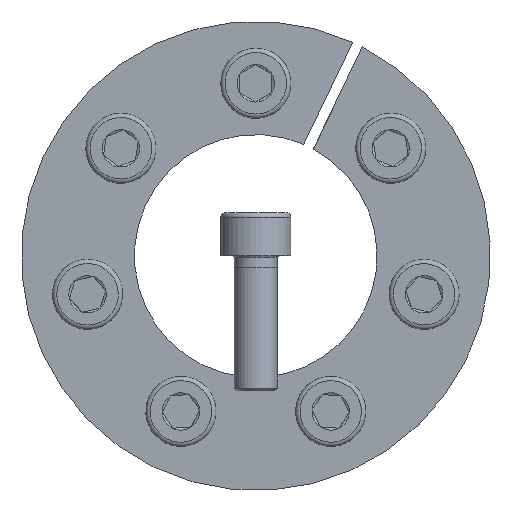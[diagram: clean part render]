
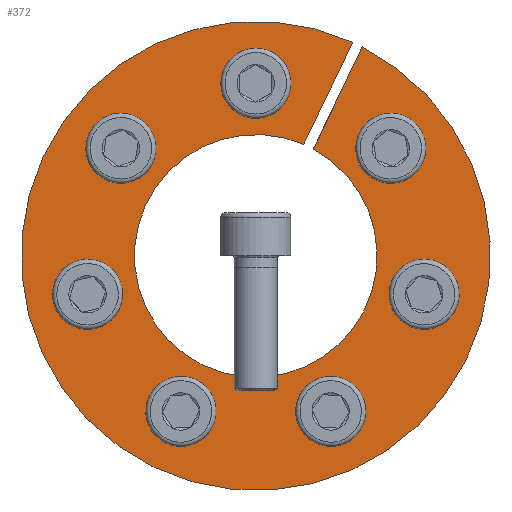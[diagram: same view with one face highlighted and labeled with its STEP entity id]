
A CAD part, front view. The second image highlights one B-rep face of the part: STEP entity #372.
In plain terms, the highlighted planar face has unit normal (0, -1, 0).
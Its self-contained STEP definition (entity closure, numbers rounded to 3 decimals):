
#372 = ADVANCED_FACE( '', ( #572, #573, #574, #575, #576, #577, #578, #579 ), #580, .F. );
#572 = FACE_OUTER_BOUND( '', #726, .T. );
#573 = FACE_BOUND( '', #727, .T. );
#574 = FACE_BOUND( '', #728, .T. );
#575 = FACE_BOUND( '', #729, .T. );
#576 = FACE_BOUND( '', #730, .T. );
#577 = FACE_BOUND( '', #731, .T. );
#578 = FACE_BOUND( '', #732, .T. );
#579 = FACE_BOUND( '', #733, .T. );
#580 = PLANE( '', #734 );
#726 = EDGE_LOOP( '', ( #910, #911, #912, #913 ) );
#727 = EDGE_LOOP( '', ( #914 ) );
#728 = EDGE_LOOP( '', ( #915 ) );
#729 = EDGE_LOOP( '', ( #916 ) );
#730 = EDGE_LOOP( '', ( #917 ) );
#731 = EDGE_LOOP( '', ( #918 ) );
#732 = EDGE_LOOP( '', ( #919 ) );
#733 = EDGE_LOOP( '', ( #920 ) );
#734 = AXIS2_PLACEMENT_3D( '', #921, #922, #923 );
#910 = ORIENTED_EDGE( '', *, *, #1235, .T. );
#911 = ORIENTED_EDGE( '', *, *, #1232, .T. );
#912 = ORIENTED_EDGE( '', *, *, #1236, .T. );
#913 = ORIENTED_EDGE( '', *, *, #1237, .F. );
#914 = ORIENTED_EDGE( '', *, *, #1238, .F. );
#915 = ORIENTED_EDGE( '', *, *, #1239, .F. );
#916 = ORIENTED_EDGE( '', *, *, #1240, .F. );
#917 = ORIENTED_EDGE( '', *, *, #1233, .F. );
#918 = ORIENTED_EDGE( '', *, *, #1241, .F. );
#919 = ORIENTED_EDGE( '', *, *, #1242, .F. );
#920 = ORIENTED_EDGE( '', *, *, #1243, .F. );
#921 = CARTESIAN_POINT( '', ( 0., 0., 43.5 ) );
#922 = DIRECTION( '', ( 0., 1., 0. ) );
#923 = DIRECTION( '', ( 1., 0., 0. ) );
#1232 = EDGE_CURVE( '', #1351, #1355, #1357, .T. );
#1233 = EDGE_CURVE( '', #1358, #1358, #1359, .T. );
#1235 = EDGE_CURVE( '', #1362, #1351, #1363, .T. );
#1236 = EDGE_CURVE( '', #1355, #1364, #1365, .T. );
#1237 = EDGE_CURVE( '', #1362, #1364, #1366, .T. );
#1238 = EDGE_CURVE( '', #1367, #1367, #1368, .T. );
#1239 = EDGE_CURVE( '', #1369, #1369, #1370, .T. );
#1240 = EDGE_CURVE( '', #1371, #1371, #1372, .T. );
#1241 = EDGE_CURVE( '', #1373, #1373, #1374, .T. );
#1242 = EDGE_CURVE( '', #1375, #1375, #1376, .T. );
#1243 = EDGE_CURVE( '', #1377, #1377, #1378, .T. );
#1351 = VERTEX_POINT( '', #1457 );
#1355 = VERTEX_POINT( '', #1462 );
#1357 = CIRCLE( '', #1465, 43.5 );
#1358 = VERTEX_POINT( '', #1466 );
#1359 = CIRCLE( '', #1467, 4.5 );
#1362 = VERTEX_POINT( '', #1470 );
#1363 = LINE( '', #1471, #1472 );
#1364 = VERTEX_POINT( '', #1473 );
#1365 = LINE( '', #1474, #1475 );
#1366 = CIRCLE( '', #1476, 22.5 );
#1367 = VERTEX_POINT( '', #1477 );
#1368 = CIRCLE( '', #1478, 4.5 );
#1369 = VERTEX_POINT( '', #1479 );
#1370 = CIRCLE( '', #1480, 4.5 );
#1371 = VERTEX_POINT( '', #1481 );
#1372 = CIRCLE( '', #1482, 4.5 );
#1373 = VERTEX_POINT( '', #1483 );
#1374 = CIRCLE( '', #1484, 4.5 );
#1375 = VERTEX_POINT( '', #1485 );
#1376 = CIRCLE( '', #1486, 4.5 );
#1377 = VERTEX_POINT( '', #1487 );
#1378 = CIRCLE( '', #1488, 4.5 );
#1457 = CARTESIAN_POINT( '', ( 17.968, 0., 39.616 ) );
#1462 = CARTESIAN_POINT( '', ( 19.77, 0., 38.748 ) );
#1465 = AXIS2_PLACEMENT_3D( '', #1587, #1588, #1589 );
#1466 = CARTESIAN_POINT( '', ( 9.83, 0., -30.783 ) );
#1467 = AXIS2_PLACEMENT_3D( '', #1590, #1591, #1592 );
#1470 = CARTESIAN_POINT( '', ( 8.852, 0., 20.686 ) );
#1471 = CARTESIAN_POINT( '', ( 8.852, 0., 20.686 ) );
#1472 = VECTOR( '', #1596, 1000. );
#1473 = CARTESIAN_POINT( '', ( 10.654, 0., 19.818 ) );
#1474 = CARTESIAN_POINT( '', ( 19.775, 0., 38.758 ) );
#1475 = VECTOR( '', #1597, 1000. );
#1476 = AXIS2_PLACEMENT_3D( '', #1598, #1599, #1600 );
#1477 = CARTESIAN_POINT( '', ( 4.5, 0., 32. ) );
#1478 = AXIS2_PLACEMENT_3D( '', #1601, #1602, #1603 );
#1479 = CARTESIAN_POINT( '', ( 27.824, 0., 16.433 ) );
#1480 = AXIS2_PLACEMENT_3D( '', #1604, #1605, #1606 );
#1481 = CARTESIAN_POINT( '', ( 30.196, 0., -11.508 ) );
#1482 = AXIS2_PLACEMENT_3D( '', #1607, #1608, #1609 );
#1483 = CARTESIAN_POINT( '', ( -17.939, 0., -26.879 ) );
#1484 = AXIS2_PLACEMENT_3D( '', #1610, #1611, #1612 );
#1485 = CARTESIAN_POINT( '', ( -32.199, 0., -2.733 ) );
#1486 = AXIS2_PLACEMENT_3D( '', #1613, #1614, #1615 );
#1487 = CARTESIAN_POINT( '', ( -22.213, 0., 23.47 ) );
#1488 = AXIS2_PLACEMENT_3D( '', #1616, #1617, #1618 );
#1587 = CARTESIAN_POINT( '', ( 0., 0., 0. ) );
#1588 = DIRECTION( '', ( 0., -1., 0. ) );
#1589 = DIRECTION( '', ( 0., 0., -1. ) );
#1590 = CARTESIAN_POINT( '', ( 13.884, 0., -28.831 ) );
#1591 = DIRECTION( '', ( 0., -1., 0. ) );
#1592 = DIRECTION( '', ( -0.901, 0., -0.434 ) );
#1596 = DIRECTION( '', ( 0.434, 0., 0.901 ) );
#1597 = DIRECTION( '', ( -0.434, 0., -0.901 ) );
#1598 = CARTESIAN_POINT( '', ( 0., 0., 0. ) );
#1599 = DIRECTION( '', ( 0., -1., 0. ) );
#1600 = DIRECTION( '', ( 0., 0., -1. ) );
#1601 = CARTESIAN_POINT( '', ( 0., 0., 32. ) );
#1602 = DIRECTION( '', ( 0., -1., 0. ) );
#1603 = DIRECTION( '', ( 1., 0., 0. ) );
#1604 = CARTESIAN_POINT( '', ( 25.019, 0., 19.952 ) );
#1605 = DIRECTION( '', ( 0., -1., 0. ) );
#1606 = DIRECTION( '', ( 0.623, 0., -0.782 ) );
#1607 = CARTESIAN_POINT( '', ( 31.198, 0., -7.121 ) );
#1608 = DIRECTION( '', ( 0., -1., 0. ) );
#1609 = DIRECTION( '', ( -0.223, 0., -0.975 ) );
#1610 = CARTESIAN_POINT( '', ( -13.884, 0., -28.831 ) );
#1611 = DIRECTION( '', ( 0., -1., 0. ) );
#1612 = DIRECTION( '', ( -0.901, 0., 0.434 ) );
#1613 = CARTESIAN_POINT( '', ( -31.198, 0., -7.121 ) );
#1614 = DIRECTION( '', ( 0., -1., 0. ) );
#1615 = DIRECTION( '', ( -0.223, 0., 0.975 ) );
#1616 = CARTESIAN_POINT( '', ( -25.019, 0., 19.952 ) );
#1617 = DIRECTION( '', ( 0., -1., 0. ) );
#1618 = DIRECTION( '', ( 0.623, 0., 0.782 ) );
